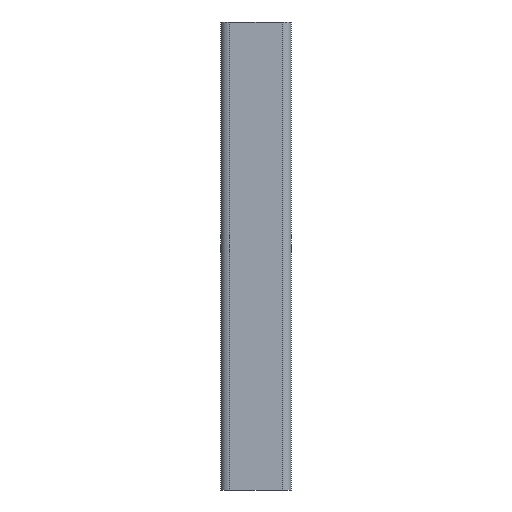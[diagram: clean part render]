
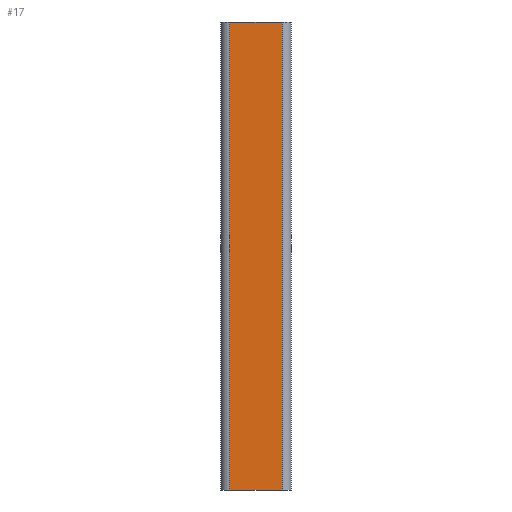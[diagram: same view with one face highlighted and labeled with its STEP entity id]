
A CAD part, front view. The second image highlights one B-rep face of the part: STEP entity #17.
In plain terms, the highlighted planar face has unit normal (0, -1, 0).
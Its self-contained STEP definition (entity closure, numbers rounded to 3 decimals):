
#17 = ADVANCED_FACE('',(#18),#32,.F.);
#18 = FACE_BOUND('',#19,.F.);
#19 = EDGE_LOOP('',(#20,#55,#83,#111));
#20 = ORIENTED_EDGE('',*,*,#21,.T.);
#21 = EDGE_CURVE('',#22,#24,#26,.T.);
#22 = VERTEX_POINT('',#23);
#23 = CARTESIAN_POINT('',(-56.25,-75.,0.));
#24 = VERTEX_POINT('',#25);
#25 = CARTESIAN_POINT('',(-56.25,-75.,1000.));
#26 = SURFACE_CURVE('',#27,(#31,#43),.PCURVE_S1.);
#27 = LINE('',#28,#29);
#28 = CARTESIAN_POINT('',(-56.25,-75.,0.));
#29 = VECTOR('',#30,1.);
#30 = DIRECTION('',(0.,0.,1.));
#31 = PCURVE('',#32,#37);
#32 = PLANE('',#33);
#33 = AXIS2_PLACEMENT_3D('',#34,#35,#36);
#34 = CARTESIAN_POINT('',(-56.25,-75.,0.));
#35 = DIRECTION('',(0.,1.,0.));
#36 = DIRECTION('',(1.,0.,0.));
#37 = DEFINITIONAL_REPRESENTATION('',(#38),#42);
#38 = LINE('',#39,#40);
#39 = CARTESIAN_POINT('',(0.,0.));
#40 = VECTOR('',#41,1.);
#41 = DIRECTION('',(0.,-1.));
#42 = ( GEOMETRIC_REPRESENTATION_CONTEXT(2) 
PARAMETRIC_REPRESENTATION_CONTEXT() REPRESENTATION_CONTEXT('2D SPACE',''
  ) );
#43 = PCURVE('',#44,#49);
#44 = CYLINDRICAL_SURFACE('',#45,18.75);
#45 = AXIS2_PLACEMENT_3D('',#46,#47,#48);
#46 = CARTESIAN_POINT('',(-56.25,-56.25,0.));
#47 = DIRECTION('',(-0.,-0.,-1.));
#48 = DIRECTION('',(1.,0.,-0.));
#49 = DEFINITIONAL_REPRESENTATION('',(#50),#54);
#50 = LINE('',#51,#52);
#51 = CARTESIAN_POINT('',(-4.712,0.));
#52 = VECTOR('',#53,1.);
#53 = DIRECTION('',(-0.,-1.));
#54 = ( GEOMETRIC_REPRESENTATION_CONTEXT(2) 
PARAMETRIC_REPRESENTATION_CONTEXT() REPRESENTATION_CONTEXT('2D SPACE',''
  ) );
#55 = ORIENTED_EDGE('',*,*,#56,.T.);
#56 = EDGE_CURVE('',#24,#57,#59,.T.);
#57 = VERTEX_POINT('',#58);
#58 = CARTESIAN_POINT('',(56.25,-75.,1000.));
#59 = SURFACE_CURVE('',#60,(#64,#71),.PCURVE_S1.);
#60 = LINE('',#61,#62);
#61 = CARTESIAN_POINT('',(-56.25,-75.,1000.));
#62 = VECTOR('',#63,1.);
#63 = DIRECTION('',(1.,0.,0.));
#64 = PCURVE('',#32,#65);
#65 = DEFINITIONAL_REPRESENTATION('',(#66),#70);
#66 = LINE('',#67,#68);
#67 = CARTESIAN_POINT('',(0.,-1000.));
#68 = VECTOR('',#69,1.);
#69 = DIRECTION('',(1.,0.));
#70 = ( GEOMETRIC_REPRESENTATION_CONTEXT(2) 
PARAMETRIC_REPRESENTATION_CONTEXT() REPRESENTATION_CONTEXT('2D SPACE',''
  ) );
#71 = PCURVE('',#72,#77);
#72 = PLANE('',#73);
#73 = AXIS2_PLACEMENT_3D('',#74,#75,#76);
#74 = CARTESIAN_POINT('',(0.,0.,1000.
    ));
#75 = DIRECTION('',(0.,0.,1.));
#76 = DIRECTION('',(1.,0.,-0.));
#77 = DEFINITIONAL_REPRESENTATION('',(#78),#82);
#78 = LINE('',#79,#80);
#79 = CARTESIAN_POINT('',(-56.25,-75.));
#80 = VECTOR('',#81,1.);
#81 = DIRECTION('',(1.,0.));
#82 = ( GEOMETRIC_REPRESENTATION_CONTEXT(2) 
PARAMETRIC_REPRESENTATION_CONTEXT() REPRESENTATION_CONTEXT('2D SPACE',''
  ) );
#83 = ORIENTED_EDGE('',*,*,#84,.F.);
#84 = EDGE_CURVE('',#85,#57,#87,.T.);
#85 = VERTEX_POINT('',#86);
#86 = CARTESIAN_POINT('',(56.25,-75.,0.));
#87 = SURFACE_CURVE('',#88,(#92,#99),.PCURVE_S1.);
#88 = LINE('',#89,#90);
#89 = CARTESIAN_POINT('',(56.25,-75.,0.));
#90 = VECTOR('',#91,1.);
#91 = DIRECTION('',(0.,0.,1.));
#92 = PCURVE('',#32,#93);
#93 = DEFINITIONAL_REPRESENTATION('',(#94),#98);
#94 = LINE('',#95,#96);
#95 = CARTESIAN_POINT('',(112.5,0.));
#96 = VECTOR('',#97,1.);
#97 = DIRECTION('',(0.,-1.));
#98 = ( GEOMETRIC_REPRESENTATION_CONTEXT(2) 
PARAMETRIC_REPRESENTATION_CONTEXT() REPRESENTATION_CONTEXT('2D SPACE',''
  ) );
#99 = PCURVE('',#100,#105);
#100 = CYLINDRICAL_SURFACE('',#101,18.75);
#101 = AXIS2_PLACEMENT_3D('',#102,#103,#104);
#102 = CARTESIAN_POINT('',(56.25,-56.25,0.));
#103 = DIRECTION('',(-0.,-0.,-1.));
#104 = DIRECTION('',(1.,0.,-0.));
#105 = DEFINITIONAL_REPRESENTATION('',(#106),#110);
#106 = LINE('',#107,#108);
#107 = CARTESIAN_POINT('',(-4.712,0.));
#108 = VECTOR('',#109,1.);
#109 = DIRECTION('',(-0.,-1.));
#110 = ( GEOMETRIC_REPRESENTATION_CONTEXT(2) 
PARAMETRIC_REPRESENTATION_CONTEXT() REPRESENTATION_CONTEXT('2D SPACE',''
  ) );
#111 = ORIENTED_EDGE('',*,*,#112,.F.);
#112 = EDGE_CURVE('',#22,#85,#113,.T.);
#113 = SURFACE_CURVE('',#114,(#118,#125),.PCURVE_S1.);
#114 = LINE('',#115,#116);
#115 = CARTESIAN_POINT('',(-56.25,-75.,0.));
#116 = VECTOR('',#117,1.);
#117 = DIRECTION('',(1.,0.,0.));
#118 = PCURVE('',#32,#119);
#119 = DEFINITIONAL_REPRESENTATION('',(#120),#124);
#120 = LINE('',#121,#122);
#121 = CARTESIAN_POINT('',(0.,0.));
#122 = VECTOR('',#123,1.);
#123 = DIRECTION('',(1.,0.));
#124 = ( GEOMETRIC_REPRESENTATION_CONTEXT(2) 
PARAMETRIC_REPRESENTATION_CONTEXT() REPRESENTATION_CONTEXT('2D SPACE',''
  ) );
#125 = PCURVE('',#126,#131);
#126 = PLANE('',#127);
#127 = AXIS2_PLACEMENT_3D('',#128,#129,#130);
#128 = CARTESIAN_POINT('',(0.,0.,0.));
#129 = DIRECTION('',(0.,0.,1.));
#130 = DIRECTION('',(1.,0.,-0.));
#131 = DEFINITIONAL_REPRESENTATION('',(#132),#136);
#132 = LINE('',#133,#134);
#133 = CARTESIAN_POINT('',(-56.25,-75.));
#134 = VECTOR('',#135,1.);
#135 = DIRECTION('',(1.,0.));
#136 = ( GEOMETRIC_REPRESENTATION_CONTEXT(2) 
PARAMETRIC_REPRESENTATION_CONTEXT() REPRESENTATION_CONTEXT('2D SPACE',''
  ) );
